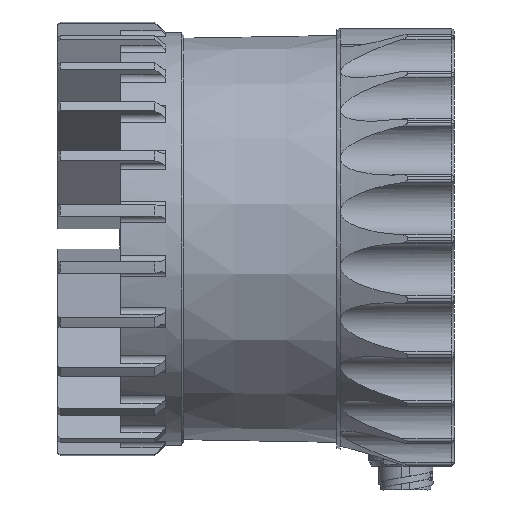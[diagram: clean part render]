
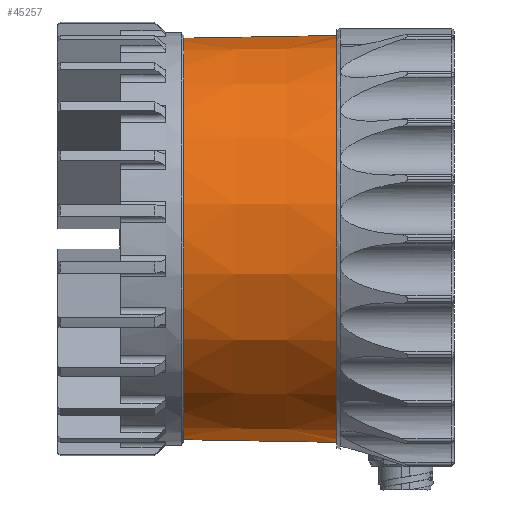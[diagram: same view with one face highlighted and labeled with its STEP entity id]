
A CAD part, left-side view. The second image highlights one B-rep face of the part: STEP entity #45257.
In plain terms, the highlighted conical face has half-angle 1 degrees and reference radius 37.194 mm.
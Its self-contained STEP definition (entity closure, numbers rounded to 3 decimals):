
#671 = CARTESIAN_POINT ( 'NONE',  ( 0., 50.1, 37.194 ) ) ;
#2339 = DIRECTION ( 'NONE',  ( 0., -1., 0.017 ) ) ;
#2765 = VERTEX_POINT ( 'NONE', #44945 ) ;
#3504 = EDGE_CURVE ( 'Defeatured_0_5+Defeatured_0_0+Defeatured_0_444+Defeatured_0_1', #48553, #18919, #40793, .T. ) ;
#10276 = EDGE_CURVE ( 'Defeatured_0_0+Defeatured_0_444+Defeatured_0_5+Defeatured_0_5', #48553, #2765, #43157, .T. ) ;
#11250 = DIRECTION ( 'NONE',  ( 0., 0., -1. ) ) ;
#14787 = DIRECTION ( 'NONE',  ( 0., -1., 0. ) ) ;
#16924 = AXIS2_PLACEMENT_3D ( 'NONE', #52458, #14787, #38140 ) ;
#18263 = CARTESIAN_POINT ( 'NONE',  ( 0., 21.75, -37.689 ) ) ;
#18919 = VERTEX_POINT ( 'NONE', #42605 ) ;
#21173 = ORIENTED_EDGE ( 'NONE', *, *, #25397, .F. ) ;
#21213 = ORIENTED_EDGE ( 'NONE', *, *, #40272, .T. ) ;
#25397 = EDGE_CURVE ( 'Defeatured_0_1+Defeatured_0_0+Defeatured_0_5+Defeatured_0_5', #18919, #42400, #50256, .T. ) ;
#26579 = VECTOR ( 'NONE', #2339, 1000. ) ;
#26764 = CARTESIAN_POINT ( 'NONE',  ( 0., 50.1, 37.194 ) ) ;
#34727 = CARTESIAN_POINT ( 'NONE',  ( 0., 50.1, -37.194 ) ) ;
#38140 = DIRECTION ( 'NONE',  ( 0., 0., -1. ) ) ;
#38241 = CARTESIAN_POINT ( 'NONE',  ( 0., 50.1, 0. ) ) ;
#39196 = ORIENTED_EDGE ( 'NONE', *, *, #10276, .T. ) ;
#39586 = LINE ( 'NONE', #34727, #42833 ) ;
#40272 = EDGE_CURVE ( 'Defeatured_0_0+Defeatured_0_5+Defeatured_0_444+Defeatured_0_1', #2765, #42400, #39586, .T. ) ;
#40793 = LINE ( 'NONE', #26764, #26579 ) ;
#41288 = DIRECTION ( 'NONE',  ( 0., 0., -1. ) ) ;
#42166 = CARTESIAN_POINT ( 'NONE',  ( 0., 21.75, 0. ) ) ;
#42400 = VERTEX_POINT ( 'NONE', #18263 ) ;
#42605 = CARTESIAN_POINT ( 'NONE',  ( 0., 21.75, 37.689 ) ) ;
#42833 = VECTOR ( 'NONE', #47843, 1000. ) ;
#43157 = CIRCLE ( 'NONE', #16924, 37.194 ) ;
#43775 = EDGE_LOOP ( 'NONE', ( #50371, #39196, #21213, #21173 ) ) ;
#44945 = CARTESIAN_POINT ( 'NONE',  ( 0., 50.1, -37.194 ) ) ;
#45257 = ADVANCED_FACE ( 'Defeatured_0_0', ( #48009 ), #56035, .T. ) ;
#46159 = DIRECTION ( 'NONE',  ( 0., -1., 0. ) ) ;
#47843 = DIRECTION ( 'NONE',  ( 0., -1., -0.017 ) ) ;
#48009 = FACE_OUTER_BOUND ( 'NONE', #43775, .T. ) ;
#48553 = VERTEX_POINT ( 'NONE', #671 ) ;
#49316 = AXIS2_PLACEMENT_3D ( 'NONE', #42166, #46159, #41288 ) ;
#50256 = CIRCLE ( 'NONE', #49316, 37.689 ) ;
#50371 = ORIENTED_EDGE ( 'NONE', *, *, #3504, .F. ) ;
#52458 = CARTESIAN_POINT ( 'NONE',  ( 0., 50.1, 0. ) ) ;
#53171 = DIRECTION ( 'NONE',  ( 0., -1., 0. ) ) ;
#56035 = CONICAL_SURFACE ( 'NONE', #56989, 37.194, 0.017 ) ;
#56989 = AXIS2_PLACEMENT_3D ( 'NONE', #38241, #53171, #11250 ) ;
